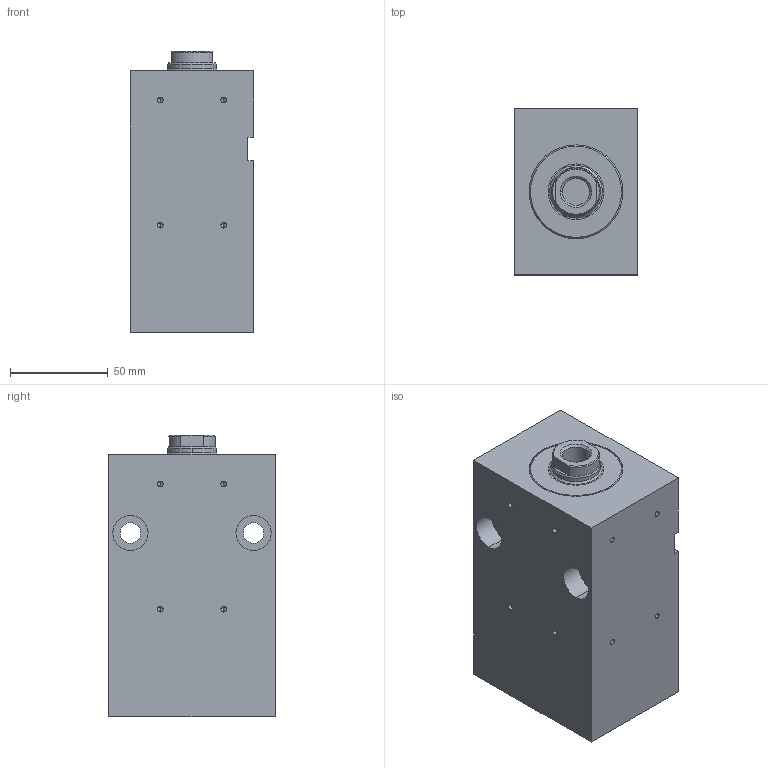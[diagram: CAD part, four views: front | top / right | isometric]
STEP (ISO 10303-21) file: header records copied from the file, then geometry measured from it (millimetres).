
FILE_DESCRIPTION (( 'STEP AP203' ), '1' );
FILE_NAME ('BZ_500.40_25.33.201.080 PP.NS40__DH_0_.STEP', '2022-05-27T08:59:32', ( '' ), ( '' ), 'SwSTEP 2.0', 'SolidWorks 2020', '' );
FILE_SCHEMA (( 'CONFIG_CONTROL_DESIGN' ));
Length unit declared in the file: millimetre
Products named in the file (7): _Kolbenstange komplett f. BZ_RZ_FZ.40_25.xx.201.80(0_11 1 16 2 0 0 10 25 0 0 0)0^BZ_500.40_25.33.201.080 PP.NS40__DH_0_(2)_BZ_500.40_25.33.201.080 PP.NS40__DH_0_; BZ_500.40_25.33.201.080 PP.NS40__DH_0_; _Gehaeuse f. BZ500.40_25.33.201.80.N1.m (m = Nut spiegelbildlich40)Nut rechts, Senkungen links00(140frei1330220))7^BZ_500.40_25.33.201.080 PP.NS40__DH_0_(2)_BZ_500.40_25.33.201.080 PP.NS40__DH_0_; _Verschraubung komplett mit Dichtung f. BZ_RZ_FZ.40_25.201, Art.-Nr._ 041752(201)^BZ_500.40_25.33.201.080 PP.NS40__DH_0_(2)_BZ_500.40_25.33.201.080 PP.NS40__DH_0_; BZ_500.40_25.33.201.080 PP.NS40__DH_0_(2)^BZ_500.40_25.33.201.080 PP.NS40__DH_0_; _Dichtungssatz f. BZ_RZ_FZ.40_25.xx.201.80 Artikelnr._ 013543(0)^BZ_500.40_25.33.201.080 PP.NS40__DH_0_(2)_BZ_500.40_25.33.201.080 PP.NS40__DH_0_; _O-Ring 9x2 - Art. 104351(2)^BZ_500.40_25.33.201.080 PP.NS40__DH_0_(2)_BZ_500.40_25.33.201.080 PP.NS40__DH_0_
Assembly tree (7 placements, depth 3):
  BZ_500.40_25.33.201.080 PP.NS40__DH_0_
    BZ_500.40_25.33.201.080 PP.NS40__DH_0_(2)^BZ_500.40_25.33.201.080 PP.NS40__DH_0_
      _Gehaeuse f. BZ500.40_25.33.201.80.N1.m (m = Nut spiegelbildlich40)Nut rechts, Senkungen links00(140frei1330220))7^BZ_500.40_25.33.201.080 PP.NS40__DH_0_(2)_BZ_500.40_25.33.201.080 PP.NS40__DH_0_
      _Verschraubung komplett mit Dichtung f. BZ_RZ_FZ.40_25.201, Art.-Nr._ 041752(201)^BZ_500.40_25.33.201.080 PP.NS40__DH_0_(2)_BZ_500.40_25.33.201.080 PP.NS40__DH_0_
      _Dichtungssatz f. BZ_RZ_FZ.40_25.xx.201.80 Artikelnr._ 013543(0)^BZ_500.40_25.33.201.080 PP.NS40__DH_0_(2)_BZ_500.40_25.33.201.080 PP.NS40__DH_0_
      _Kolbenstange komplett f. BZ_RZ_FZ.40_25.xx.201.80(0_11 1 16 2 0 0 10 25 0 0 0)0^BZ_500.40_25.33.201.080 PP.NS40__DH_0_(2)_BZ_500.40_25.33.201.080 PP.NS40__DH_0_
      _O-Ring 9x2 - Art. 104351(2)^BZ_500.40_25.33.201.080 PP.NS40__DH_0_(2)_BZ_500.40_25.33.201.080 PP.NS40__DH_0_  x2
Bounding box: 63 x 85 x 144 mm (x, y, z)
Volume: 637522.9 mm3; surface area: 98494.1 mm2
Topology: 6 solids, 6 shells, 154 faces, 353 edges, 209 vertices
Faces by surface type: cylinder 70, plane 38, cone 34, torus 12
Entity records: 4834 total; most frequent: DIRECTION 783, CARTESIAN_POINT 727, ORIENTED_EDGE 626, AXIS2_PLACEMENT_3D 323, EDGE_CURVE 313, VERTEX_POINT 199, EDGE_LOOP 182, CIRCLE 166
